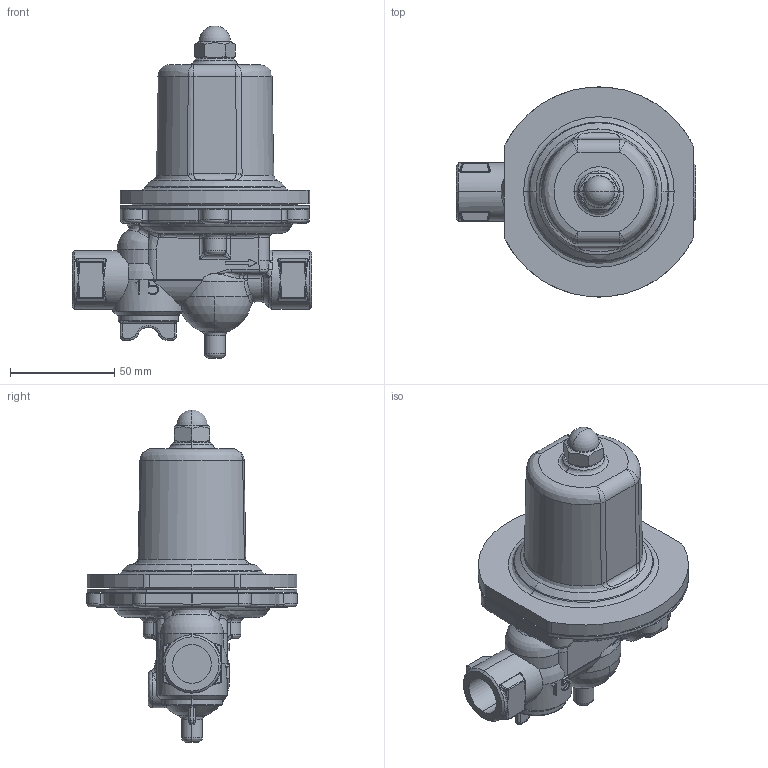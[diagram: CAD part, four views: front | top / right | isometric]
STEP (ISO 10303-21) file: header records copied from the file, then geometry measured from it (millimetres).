
FILE_DESCRIPTION( (''), '2;1');
FILE_NAME ('PC1027.4860.GD-28-NE　15A_27349.stp','2025-07-25T17:37:20',(''),(''),'spGate 19.8.4 (****-****-****-****)','','');
FILE_SCHEMA (('AUTOMOTIVE_DESIGN'));
Length unit declared in the file: millimetre
Products named in the file (6): Assembly; GD-26-NE ダイヤフラム 15-25A; GD-26-NE 保護筒 15-25A; GD-26-NE 六角袋ナット 15-25A; GD-26-NE ストレーナキャップ 15-20A; GD-28-NE 弁箱 15A
Assembly tree (5 placements, depth 2):
  Assembly
    GD-26-NE ダイヤフラム 15-25A
    GD-26-NE 保護筒 15-25A
    GD-26-NE 六角袋ナット 15-25A
    GD-26-NE ストレーナキャップ 15-20A
    GD-28-NE 弁箱 15A
Bounding box: 115 x 100.98 x 159.5 mm (x, y, z)
Volume: 398563.9 mm3; surface area: 77100.6 mm2
Topology: 5 solids, 5 shells, 571 faces, 1357 edges, 767 vertices
Faces by surface type: bspline 256, cylinder 171, plane 101, sphere 43
Entity records: 35687 total; most frequent: CARTESIAN_POINT 13734, ORIENTED_EDGE 2622, DIRECTION 1973, COLOUR_RGB 1887, PRESENTATION_STYLE_ASSIGNMENT 1887, STYLED_ITEM 1887, EDGE_CURVE 1311, DRAUGHTING_PRE_DEFINED_CURVE_FONT 1311
